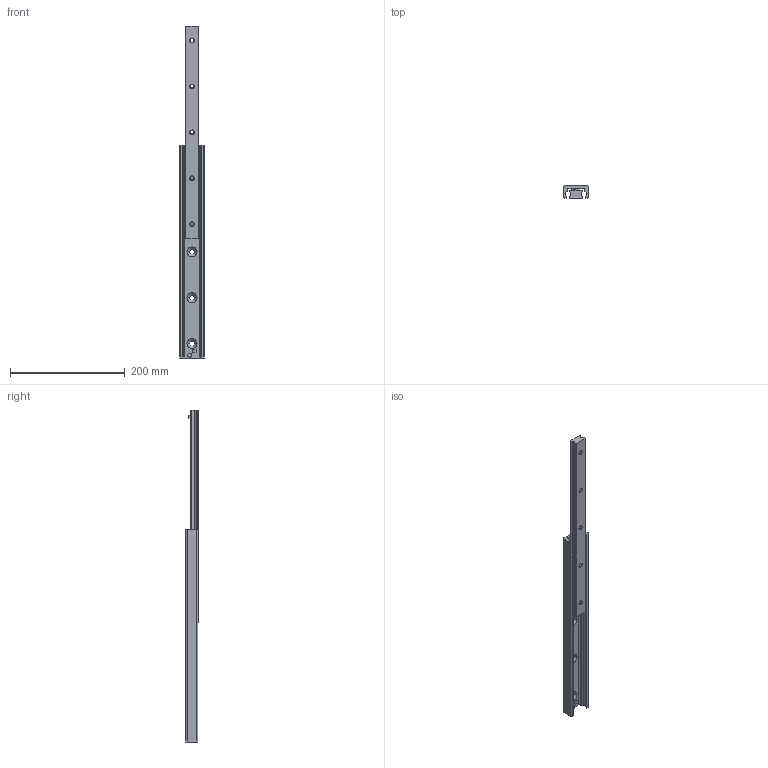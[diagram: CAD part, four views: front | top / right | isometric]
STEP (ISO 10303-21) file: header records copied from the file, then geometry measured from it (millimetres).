
FILE_DESCRIPTION(('STEP AP214'),'1');
FILE_NAME('rail_asn43-370_01.stp','2017-06-06T10:18:25',('TraceParts'),('TraceParts S.A.'),'Spatial InterOp 3D',' ',' ');
FILE_SCHEMA(('automotive_design'));
Length unit declared in the file: millimetre
Products named in the file (2): rail_asn43-370_01_1; rail_asn43-370_01_2
Bounding box: 43 x 22.01 x 578 mm (x, y, z)
Volume: 225328.2 mm3; surface area: 88338.5 mm2
Topology: 2 solids, 2 shells, 127 faces, 324 edges, 206 vertices
Faces by surface type: cylinder 51, plane 46, cone 30
Entity records: 3920 total; most frequent: DIRECTION 714, CARTESIAN_POINT 659, ORIENTED_EDGE 648, EDGE_CURVE 324, AXIS2_PLACEMENT_3D 261, VERTEX_POINT 206, LINE 192, VECTOR 192
